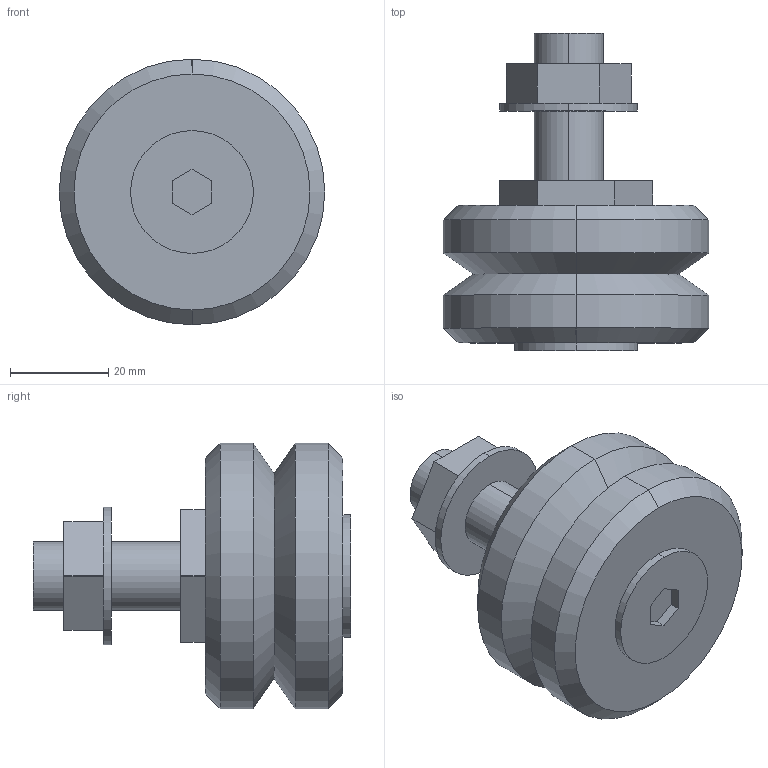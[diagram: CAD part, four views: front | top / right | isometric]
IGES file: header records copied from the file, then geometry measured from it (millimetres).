
Start section: 3D InterOp IGES (v. 2019 1.0.2), Spatial Corp. Copyright (c) 1999-2017.
Global section: file name: SS LJ54 E.igs; native system: Spatial Corp.; preprocessor: 3D InterOp GENERIC/IGES 3.0; author: Noname; organization: Noname; date: 20220628.114800; units: millimetre
Bounding box: 54 x 64.6 x 54 mm (x, y, z)
Surface area: 12786.9 mm2 (no closed solid volume)
Topology: 0 solids, 0 shells, 54 faces, 244 edges, 244 vertices
Faces by surface type: extrusion 34, revolution 20
